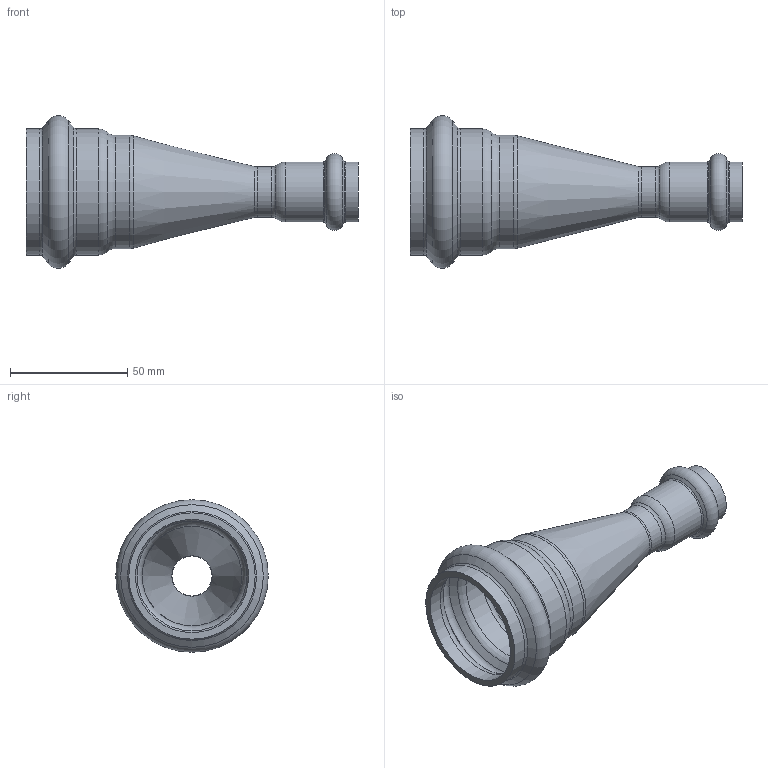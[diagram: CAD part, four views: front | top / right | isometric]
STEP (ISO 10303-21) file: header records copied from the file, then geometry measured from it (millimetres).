
FILE_DESCRIPTION(/* description */ ('VIC REDUCER CONC. STYLE P594 (P X P)','CAx-IF Rec.Pracs.---Representation and Presentation of Product Manufacturing Information (PMI)---4.0---2014-10-13'),/* implementation_level */ '2;1');
FILE_NAME(/* name */ 'C:\Users\Vjadhav\AppData\Roaming\Autodesk\ApplicationPlugins\Back Up\Victaulic_SS-Vic-Press-TP 304_Reducer Concentric_Style P594 (VP)\Victaulic_SS-Vic-Press-TP 304_Reducer Concentric_Style P594 (VP)_01.5x0.50 (40x15).stp',/* time_stamp */ '2020-08-12T18:14:52+06:00',/* author */ ('cgray'),/* organization */ ('Victaulic'),/* preprocessor_version */ 'ST-DEVELOPER v17.2',/* originating_system */ 'Autodesk Inventor 2019',/* authorisation */ '');
FILE_SCHEMA (('AP242_MANAGED_MODEL_BASED_3D_ENGINEERING_MIM_LF { 1 0 10303 442 1 1 4 }'));
Length unit declared in the file: inch
Products named in the file (1): P594-01.5x0.5
Bounding box: 141.48 x 64.94 x 64.94 mm (x, y, z)
Volume: 43521 mm3; surface area: 35136.5 mm2
Topology: 1 solids, 1 shells, 48 faces, 182 edges, 136 vertices
Faces by surface type: torus 24, cylinder 12, cone 10, plane 2
Full cylindrical faces by diameter (mm): 17.12 x1, 21.336 x3, 25.552 x2, 42.723 x1, 48.26 x3, 53.797 x2
Entity records: 2282 total; most frequent: DIRECTION 466, CARTESIAN_POINT 384, ORIENTED_EDGE 364, AXIS2_PLACEMENT_3D 222, EDGE_CURVE 182, CIRCLE 160, VERTEX_POINT 136, EDGE_LOOP 50
